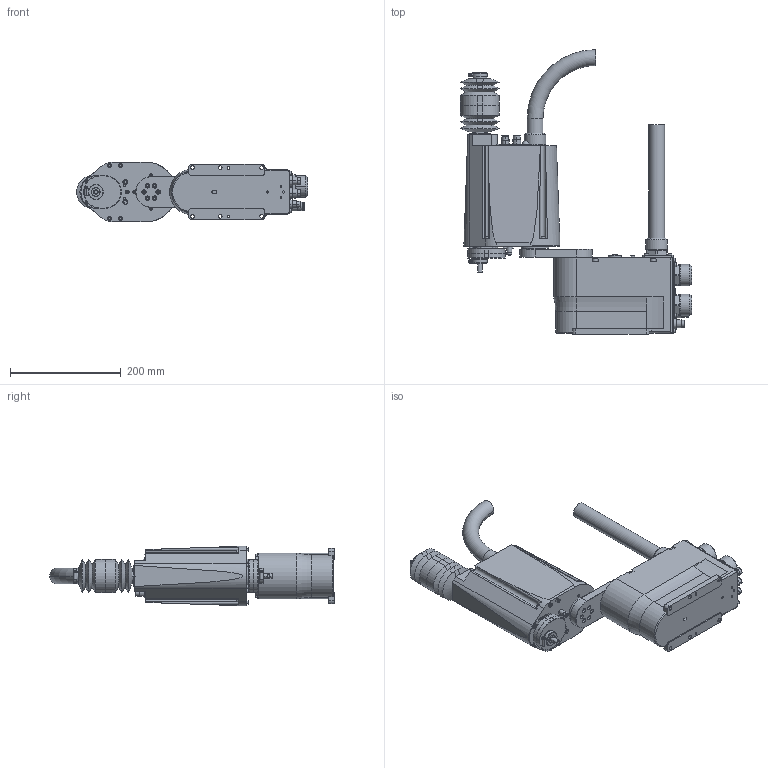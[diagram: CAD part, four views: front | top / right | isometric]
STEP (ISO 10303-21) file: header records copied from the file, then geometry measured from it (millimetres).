
FILE_DESCRIPTION( ( '' ), '1' );
FILE_NAME( '//expscmdclustefs.cadenas.external/client_exchange/iodir/jobs/output/wkb51504076_no0/STEP/G1_171CZ_2_14b.stp', '2012-11-22T13:03:59', ( '' ), ( '' ), ' ', ' ', ' ' );
FILE_SCHEMA( ( 'automotive_design' ) );
Length unit declared in the file: millimetre
Products named in the file (8): 1; 2; 3; 4; 5; 6; 7; 8
Bounding box: 418 x 515 x 108 mm (x, y, z)
Volume: 5327038.6 mm3; surface area: 474442.5 mm2
Topology: 8 solids, 10 shells, 1757 faces, 4150 edges, 2679 vertices
Faces by surface type: plane 952, cylinder 576, cone 206, torus 18, sphere 5
Entity records: 99369 total; most frequent: DIRECTION 9136, CARTESIAN_POINT 9031, STYLED_ITEM 8592, PRESENTATION_STYLE_ASSIGNMENT 8592, COLOUR_RGB 8592, ORIENTED_EDGE 8296, EDGE_CURVE 4148, CURVE_STYLE 4148
